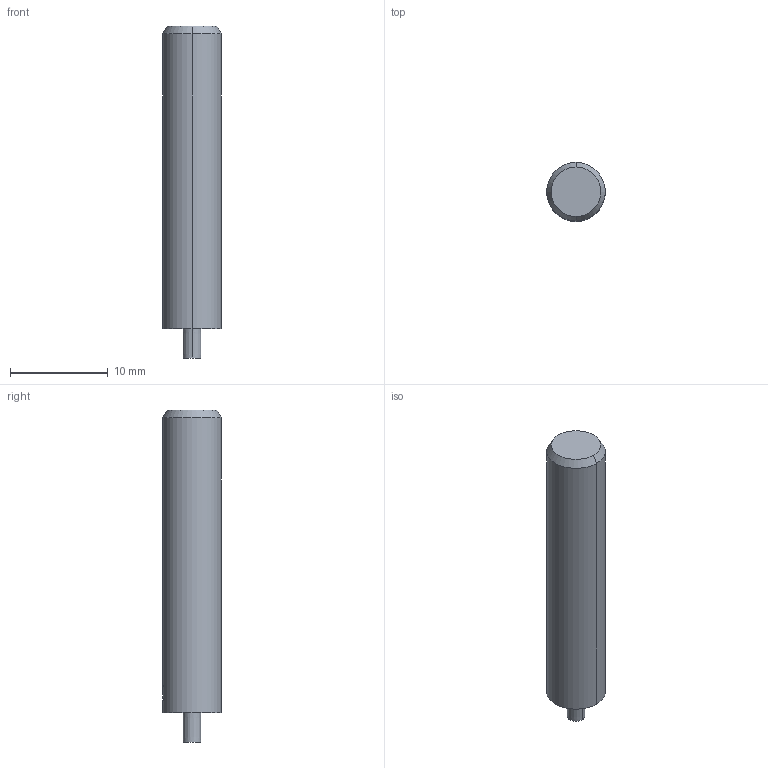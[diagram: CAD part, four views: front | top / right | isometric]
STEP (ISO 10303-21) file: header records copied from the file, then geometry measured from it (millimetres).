
FILE_DESCRIPTION(('no description'),'unknown implementation level');
FILE_NAME('solidv8_zxc4dAydDM_8NTG80WoaYOYY_1.STP',' ',('CIMSOURCE GmbH'),('CADClick - KiM GmbH - www.kimweb.de'),'unknown preprocess','ACIS','unknown authorization');
FILE_SCHEMA(('automotive_design'));
Length unit declared in the file: millimetre
Products named in the file (2): NOCUT; CUT
Bounding box: 6 x 6 x 34 mm (x, y, z)
Volume: 880.7 mm3; surface area: 657 mm2
Topology: 2 solids, 2 shells, 23 faces, 55 edges, 36 vertices
Faces by surface type: cylinder 10, plane 9, cone 4
Entity records: 1560 total; most frequent: CARTESIAN_POINT 336, STYLED_ITEM 116, PRESENTATION_STYLE_ASSIGNMENT 116, COLOUR_RGB 116, DIRECTION 115, ORIENTED_EDGE 110, EDGE_CURVE 55, CURVE_STYLE 55
